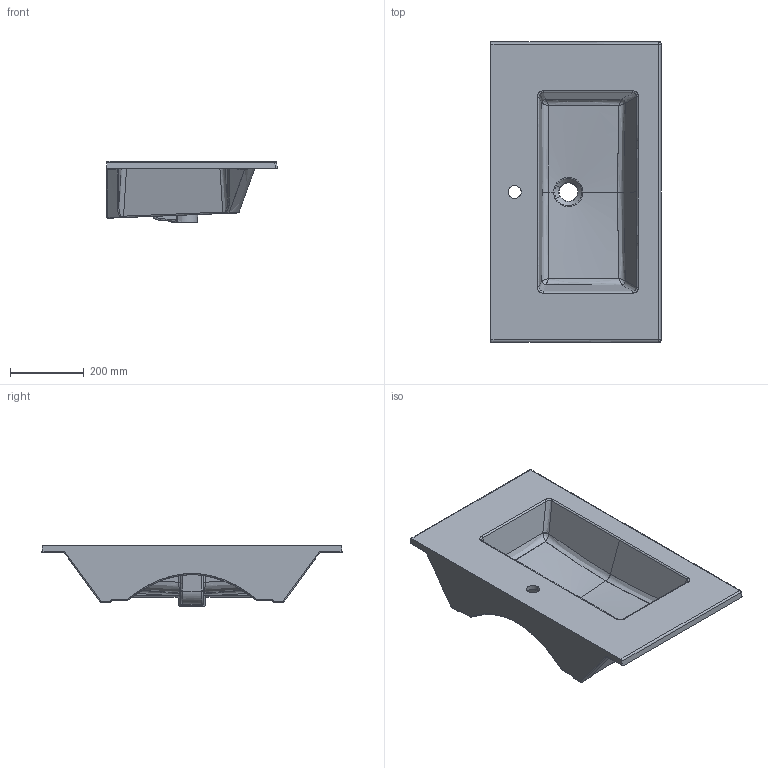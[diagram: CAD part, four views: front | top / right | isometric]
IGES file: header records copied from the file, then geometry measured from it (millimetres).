
Start section: START RECORD GO HERE.
Global section: file name: LAVABO 81X46.igs; native system: DASSAULT SYSTEMES CATIA V5 R19 - www.3ds.com; preprocessor: CATIA Version 5 Release 19 SP 5 ; author: Luca; organization: DESKTOP-V7SON24; date: 20200124.162425; units: millimetre
Bounding box: 461.75 x 813.5 x 167.6 mm (x, y, z)
Surface area: 1228325.7 mm2 (no closed solid volume)
Topology: 0 solids, 0 shells, 393 faces, 1795 edges, 1772 vertices
Faces by surface type: bspline 236, revolution 140, plane 17
